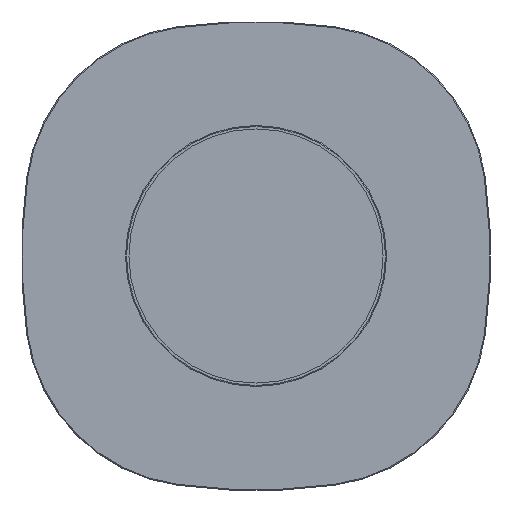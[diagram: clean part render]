
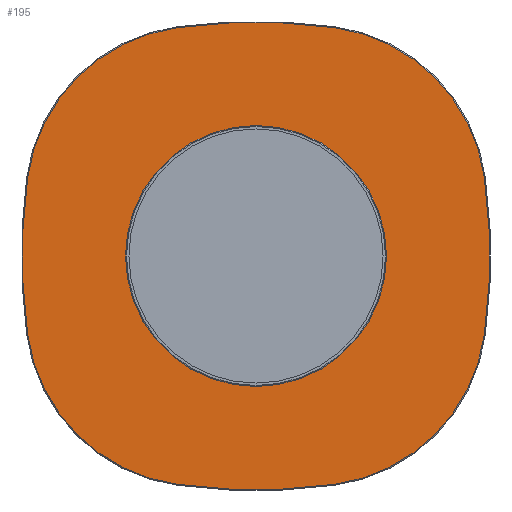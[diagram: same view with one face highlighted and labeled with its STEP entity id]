
A CAD part, front view. The second image highlights one B-rep face of the part: STEP entity #195.
In plain terms, the highlighted planar face has unit normal (0, -1, 0).
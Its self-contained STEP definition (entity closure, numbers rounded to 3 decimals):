
#105=CARTESIAN_POINT('',(0.,657.451,0.));
#106=DIRECTION('',(0.0,1.0,0.0));
#107=DIRECTION('',(0.0,0.0,-1.0));
#108=AXIS2_PLACEMENT_3D('',#105,#106,#107);
#109=PLANE('',#108);
#110=CARTESIAN_POINT('',(233.625,657.451,80.135));
#111=VERTEX_POINT('',#110);
#112=CARTESIAN_POINT('',(233.625,657.451,-80.135));
#113=VERTEX_POINT('',#112);
#114=CARTESIAN_POINT('',(-361.,657.451,0.));
#115=DIRECTION('',(0.,1.0,0.));
#116=DIRECTION('',(0.991,0.,0.134));
#117=AXIS2_PLACEMENT_3D('',#114,#115,#116);
#118=CIRCLE('',#117,600.0);
#119=EDGE_CURVE('',#111,#113,#118,.T.);
#120=ORIENTED_EDGE('',*,*,#119,.F.);
#121=CARTESIAN_POINT('',(80.135,657.451,233.625));
#122=VERTEX_POINT('',#121);
#123=CARTESIAN_POINT('',(56.228,657.451,56.228));
#124=DIRECTION('',(0.,1.0,0.));
#125=DIRECTION('',(0.134,0.,0.991));
#126=AXIS2_PLACEMENT_3D('',#123,#124,#125);
#127=CIRCLE('',#126,179.);
#128=EDGE_CURVE('',#122,#111,#127,.T.);
#129=ORIENTED_EDGE('',*,*,#128,.F.);
#130=CARTESIAN_POINT('',(-80.135,657.451,233.625));
#131=VERTEX_POINT('',#130);
#132=CARTESIAN_POINT('',(0.,657.451,-361.0));
#133=DIRECTION('',(0.,1.0,0.));
#134=DIRECTION('',(-0.134,0.,0.991));
#135=AXIS2_PLACEMENT_3D('',#132,#133,#134);
#136=CIRCLE('',#135,600.0);
#137=EDGE_CURVE('',#131,#122,#136,.T.);
#138=ORIENTED_EDGE('',*,*,#137,.F.);
#139=CARTESIAN_POINT('',(-233.625,657.451,80.135));
#140=VERTEX_POINT('',#139);
#141=CARTESIAN_POINT('',(-56.228,657.451,56.228));
#142=DIRECTION('',(0.,1.0,0.));
#143=DIRECTION('',(-0.991,0.,0.134));
#144=AXIS2_PLACEMENT_3D('',#141,#142,#143);
#145=CIRCLE('',#144,179.);
#146=EDGE_CURVE('',#140,#131,#145,.T.);
#147=ORIENTED_EDGE('',*,*,#146,.F.);
#148=CARTESIAN_POINT('',(-233.625,657.451,-80.135));
#149=VERTEX_POINT('',#148);
#150=CARTESIAN_POINT('',(361.,657.451,0.));
#151=DIRECTION('',(0.,1.0,0.));
#152=DIRECTION('',(-0.991,0.,-0.134));
#153=AXIS2_PLACEMENT_3D('',#150,#151,#152);
#154=CIRCLE('',#153,600.0);
#155=EDGE_CURVE('',#149,#140,#154,.T.);
#156=ORIENTED_EDGE('',*,*,#155,.F.);
#157=CARTESIAN_POINT('',(-80.135,657.451,-233.625));
#158=VERTEX_POINT('',#157);
#159=CARTESIAN_POINT('',(-56.228,657.451,-56.228));
#160=DIRECTION('',(0.,1.0,0.));
#161=DIRECTION('',(-0.134,0.,-0.991));
#162=AXIS2_PLACEMENT_3D('',#159,#160,#161);
#163=CIRCLE('',#162,179.);
#164=EDGE_CURVE('',#158,#149,#163,.T.);
#165=ORIENTED_EDGE('',*,*,#164,.F.);
#166=CARTESIAN_POINT('',(80.135,657.451,-233.625));
#167=VERTEX_POINT('',#166);
#168=CARTESIAN_POINT('',(0.,657.451,361.0));
#169=DIRECTION('',(0.,1.0,0.));
#170=DIRECTION('',(0.134,0.,-0.991));
#171=AXIS2_PLACEMENT_3D('',#168,#169,#170);
#172=CIRCLE('',#171,600.0);
#173=EDGE_CURVE('',#167,#158,#172,.T.);
#174=ORIENTED_EDGE('',*,*,#173,.F.);
#175=CARTESIAN_POINT('',(56.228,657.451,-56.228));
#176=DIRECTION('',(0.,1.0,0.));
#177=DIRECTION('',(0.991,0.,-0.134));
#178=AXIS2_PLACEMENT_3D('',#175,#176,#177);
#179=CIRCLE('',#178,179.);
#180=EDGE_CURVE('',#113,#167,#179,.T.);
#181=ORIENTED_EDGE('',*,*,#180,.F.);
#182=EDGE_LOOP('',(#120,#129,#138,#147,#156,#165,#174,#181));
#183=FACE_OUTER_BOUND('',#182,.T.);
#184=CARTESIAN_POINT('',(0.,657.451,-19.75));
#185=VERTEX_POINT('',#184);
#186=CARTESIAN_POINT('',(0.,657.451,0.));
#187=DIRECTION('',(0.0,-1.0,0.0));
#188=DIRECTION('',(0.0,0.0,1.0));
#189=AXIS2_PLACEMENT_3D('',#186,#187,#188);
#190=CIRCLE('',#189,19.75);
#191=EDGE_CURVE('',#185,#185,#190,.T.);
#192=ORIENTED_EDGE('',*,*,#191,.F.);
#193=EDGE_LOOP('',(#192));
#194=FACE_BOUND('',#193,.T.);
#195=ADVANCED_FACE('',(#183,#194),#109,.F.);
